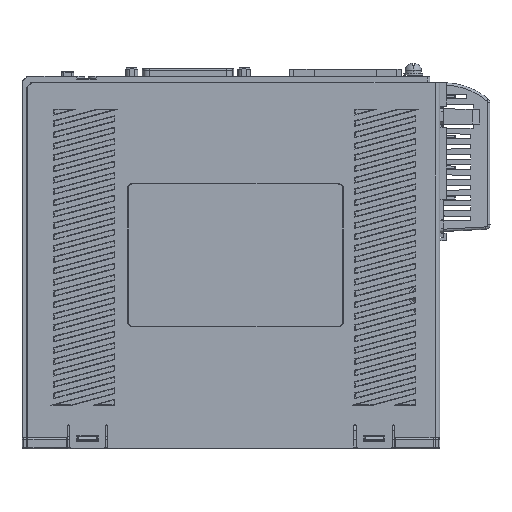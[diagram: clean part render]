
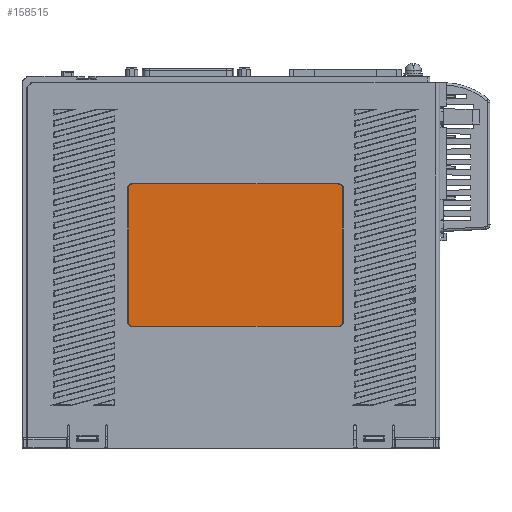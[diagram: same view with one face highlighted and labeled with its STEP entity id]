
A CAD part, left-side view. The second image highlights one B-rep face of the part: STEP entity #158515.
In plain terms, the highlighted planar face has unit normal (-1, 0, 0) as drawn and (0, 0, -1) by its records, which use the part's own axes.
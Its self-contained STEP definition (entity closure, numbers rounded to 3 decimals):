
#121830=DIRECTION('',(0.,1.,0.));
#121831=VECTOR('',#121830,55.6);
#121832=CARTESIAN_POINT('',(-43.1,-108.9,
-19.5));
#121833=LINE('',#121832,#121831);
#121834=CARTESIAN_POINT('',(-43.1,-53.3,
-19.5));
#121839=CARTESIAN_POINT('',(-43.1,-108.9,
-19.5));
#121848=DIRECTION('',(-1.,0.,0.));
#121849=VECTOR('',#121848,86.);
#121850=CARTESIAN_POINT('',(44.9,-110.9,
-19.5));
#121851=LINE('',#121850,#121849);
#121852=CARTESIAN_POINT('',(-41.1,-110.9,
-19.5));
#121857=CARTESIAN_POINT('',(44.9,-110.9,
-19.5));
#121866=DIRECTION('',(0.,-1.,0.));
#121867=VECTOR('',#121866,55.6);
#121868=CARTESIAN_POINT('',(46.9,-53.3,
-19.5));
#121869=LINE('',#121868,#121867);
#121870=CARTESIAN_POINT('',(46.9,-108.9,
-19.5));
#121875=CARTESIAN_POINT('',(46.9,-53.3,
-19.5));
#121884=DIRECTION('',(1.,0.,0.));
#121885=VECTOR('',#121884,86.);
#121886=CARTESIAN_POINT('',(-41.1,-51.3,
-19.5));
#121887=LINE('',#121886,#121885);
#121888=CARTESIAN_POINT('',(44.9,-51.3,
-19.5));
#121893=CARTESIAN_POINT('',(-41.1,-53.3,
-19.5));
#121894=DIRECTION('',(0.,0.,1.));
#121895=DIRECTION('',(0.,1.,0.));
#121896=AXIS2_PLACEMENT_3D('',#121893,#121894,#121895);
#121898=CARTESIAN_POINT('',(-41.1,-108.9,
-19.5));
#121899=DIRECTION('',(0.,0.,1.));
#121900=DIRECTION('',(-1.,0.,0.));
#121901=AXIS2_PLACEMENT_3D('',#121898,#121899,#121900);
#121903=CARTESIAN_POINT('',(44.9,-108.9,
-19.5));
#121904=DIRECTION('',(0.,0.,1.));
#121905=DIRECTION('',(0.,-1.,
0.));
#121906=AXIS2_PLACEMENT_3D('',#121903,#121904,#121905);
#121908=CARTESIAN_POINT('',(44.9,-53.3,
-19.5));
#121909=DIRECTION('',(0.,0.,1.));
#121910=DIRECTION('',(1.,0.,0.));
#121911=AXIS2_PLACEMENT_3D('',#121908,#121909,#121910);
#134918=VERTEX_POINT('',#121834);
#134919=CARTESIAN_POINT('',(-41.1,-51.3,
-19.5));
#134920=VERTEX_POINT('',#134919);
#134921=VERTEX_POINT('',#121839);
#134922=VERTEX_POINT('',#121852);
#134923=VERTEX_POINT('',#121857);
#134924=VERTEX_POINT('',#121870);
#134925=VERTEX_POINT('',#121875);
#134926=VERTEX_POINT('',#121888);
#158500=CARTESIAN_POINT('',(0.,-156.,-19.5));
#158501=DIRECTION('',(0.,0.,-1.));
#158502=DIRECTION('',(-1.,0.,0.));
#158503=AXIS2_PLACEMENT_3D('',#158500,#158501,#158502);
#158504=PLANE('',#158503);
#158505=ORIENTED_EDGE('',*,*,#158358,.T.);
#158506=ORIENTED_EDGE('',*,*,#158378,.F.);
#158507=ORIENTED_EDGE('',*,*,#158398,.T.);
#158508=ORIENTED_EDGE('',*,*,#158417,.F.);
#158509=ORIENTED_EDGE('',*,*,#158437,.T.);
#158510=ORIENTED_EDGE('',*,*,#158456,.F.);
#158511=ORIENTED_EDGE('',*,*,#158476,.T.);
#158512=ORIENTED_EDGE('',*,*,#158494,.F.);
#158513=EDGE_LOOP('',(#158505,#158506,#158507,#158508,#158509,#158510,#158511,
#158512));
#158514=FACE_OUTER_BOUND('',#158513,.F.);
#121897=CIRCLE('',#121896,2.);
#121902=CIRCLE('',#121901,2.);
#121907=CIRCLE('',#121906,2.);
#121912=CIRCLE('',#121911,2.);
#158358=EDGE_CURVE('',#134920,#134918,#121897,.T.);
#158378=EDGE_CURVE('',#134921,#134918,#121833,.T.);
#158398=EDGE_CURVE('',#134921,#134922,#121902,.T.);
#158417=EDGE_CURVE('',#134923,#134922,#121851,.T.);
#158437=EDGE_CURVE('',#134923,#134924,#121907,.T.);
#158456=EDGE_CURVE('',#134925,#134924,#121869,.T.);
#158476=EDGE_CURVE('',#134925,#134926,#121912,.T.);
#158494=EDGE_CURVE('',#134920,#134926,#121887,.T.);
#158515=ADVANCED_FACE('',(#158514),#158504,.T.);
